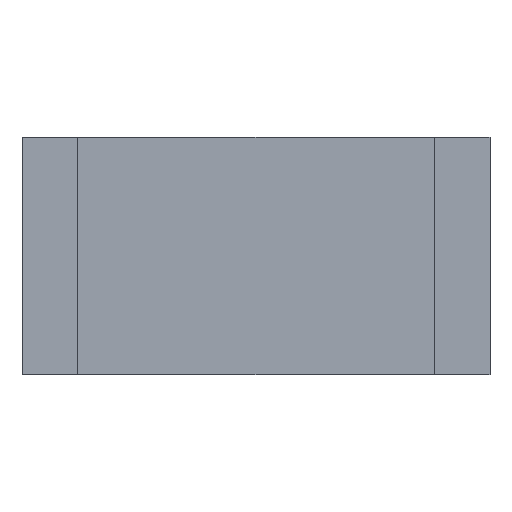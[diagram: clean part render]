
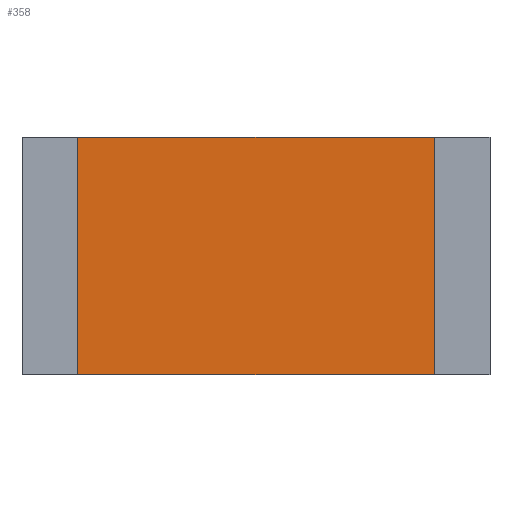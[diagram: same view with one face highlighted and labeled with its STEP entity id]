
A CAD part, top view. The second image highlights one B-rep face of the part: STEP entity #358.
In plain terms, the highlighted planar face has unit normal (0, 0, 1).
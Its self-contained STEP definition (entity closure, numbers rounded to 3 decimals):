
#358=ADVANCED_FACE('',(#586),#588,.T.);
#586=FACE_BOUND('',#587,.T.);
#587=EDGE_LOOP('',(#736,#737,#738,#739));
#588=PLANE('',#589);
#589=AXIS2_PLACEMENT_3D('',#590,#591,#592);
#590=CARTESIAN_POINT('',(0.,0.,0.59));
#591=DIRECTION('',(0.,0.,1.));
#592=DIRECTION('',(-1.,0.,0.));
#736=ORIENTED_EDGE('',*,*,#806,.T.);
#737=ORIENTED_EDGE('',*,*,#810,.T.);
#738=ORIENTED_EDGE('',*,*,#813,.T.);
#739=ORIENTED_EDGE('',*,*,#815,.T.);
#806=EDGE_CURVE('',#921,#919,#922,.T.);
#810=EDGE_CURVE('',#919,#926,#928,.T.);
#813=EDGE_CURVE('',#926,#931,#933,.T.);
#815=EDGE_CURVE('',#931,#921,#935,.T.);
#919=VERTEX_POINT('',#1161);
#921=VERTEX_POINT('',#1165);
#922=LINE('',#1166,#1167);
#926=VERTEX_POINT('',#1176);
#928=LINE('',#1180,#1181);
#931=VERTEX_POINT('',#1187);
#933=LINE('',#1191,#1192);
#935=LINE('',#1197,#1198);
#1161=CARTESIAN_POINT('',(-2.4,-1.6,0.59));
#1165=CARTESIAN_POINT('',(-2.4,1.6,0.59));
#1166=CARTESIAN_POINT('',(-2.4,1.6,0.59));
#1167=VECTOR('',#1168,1.);
#1168=DIRECTION('',(0.,-1.,0.));
#1176=CARTESIAN_POINT('',(2.4,-1.6,0.59));
#1180=CARTESIAN_POINT('',(-2.4,-1.6,0.59));
#1181=VECTOR('',#1182,1.);
#1182=DIRECTION('',(1.,0.,0.));
#1187=CARTESIAN_POINT('',(2.4,1.6,0.59));
#1191=CARTESIAN_POINT('',(2.4,-1.6,0.59));
#1192=VECTOR('',#1193,1.);
#1193=DIRECTION('',(0.,1.,0.));
#1197=CARTESIAN_POINT('',(2.4,1.6,0.59));
#1198=VECTOR('',#1199,1.);
#1199=DIRECTION('',(-1.,0.,0.));
